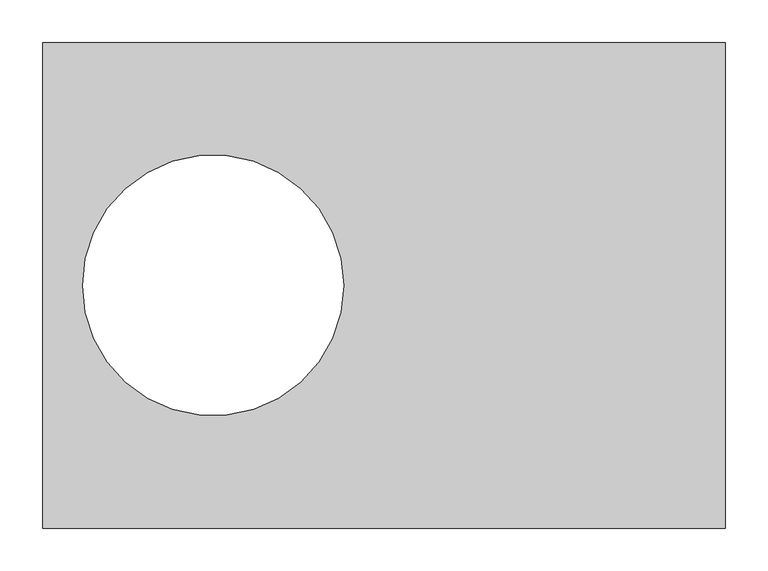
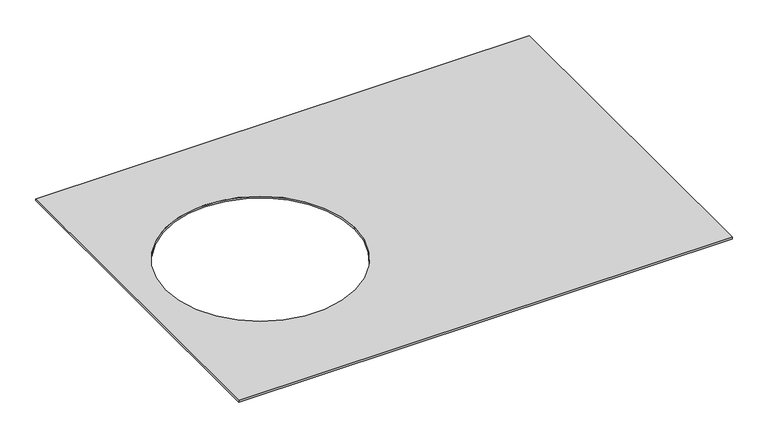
"""IFC4 building model written with IfcOpenShell, lengths in millimetres: proxy geometry, Electrical_Installation_Hager_Cover-R12-BKAD : Electrical_Installation_Hager_Cover-R12-BKAD."""

from ifc_helpers import new_model, si_unit, point, frame, frame_2d, origin, place, context, project, spatial, polyline, circle_curve, trimmed, segment, composite_curve, outline, extrude, source, transform, mapped, element, save


def electrical_fixtures_b622e032(model_context):
    return source(origin(), model_context, "Body", "SweptSolid", [
        extrude(outline(polyline([(800.0, 284.75), (800.0, -284.75), (0.0, -284.75), (0.0, 284.75), (800.0, 284.75)]), holes=[composite_curve([segment(trimmed(circle_curve(frame_2d((199.7148726, 0.0)), 153.0), [point((46.7148726, 0.0))], [point((352.7148726, 0.0))], True, "CARTESIAN"), True, "CONTINUOUS"), segment(trimmed(circle_curve(frame_2d((199.7148726, 0.0)), 153.0), [point((352.7148726, 0.0))], [point((46.7148726, 0.0))], True, "CARTESIAN"), True, "CONTINUOUS")], self_intersect=False)]), frame((0.0, 0.0, 10.0), z_axis=(0.0, 0.0, 1.0), x_axis=(1.0, 0.0, 0.0)), (0.0, 0.0, 1.0), 3.0),
    ])


if __name__ == "__main__":
    model = new_model("IFC4")
    model_context = context("Model", 3, world=origin())
    ifc_project = project(units=[si_unit("LENGTHUNIT", "METRE", prefix="MILLI")], contexts=[model_context])
    site = spatial("IfcSite", under=ifc_project)
    building = spatial("IfcBuilding", under=site)
    placement = place(None, origin())
    electrical_fixtures_shape = electrical_fixtures_b622e032(model_context)
    element("IfcBuildingElementProxy", 1, Name="Electrical_Installation_Hager_Cover-R12-BKAD : Electrical_Installation_Hager_Cover-R12-BKAD", ObjectType="Electrical_Installation_Hager_Cover-R12-BKAD : Electrical_Installation_Hager_Cover-R12-BKAD", at=placement, inside=building, context=model_context, shape_type="MappedRepresentation", body=[
        mapped(electrical_fixtures_shape, transform((0.0, 0.0, 0.0), x_axis=(1.0, 0.0, 0.0), y_axis=(0.0, 1.0, 0.0), z_axis=(0.0, 0.0, 1.0))),
    ])
    save(model, "model.ifc")
